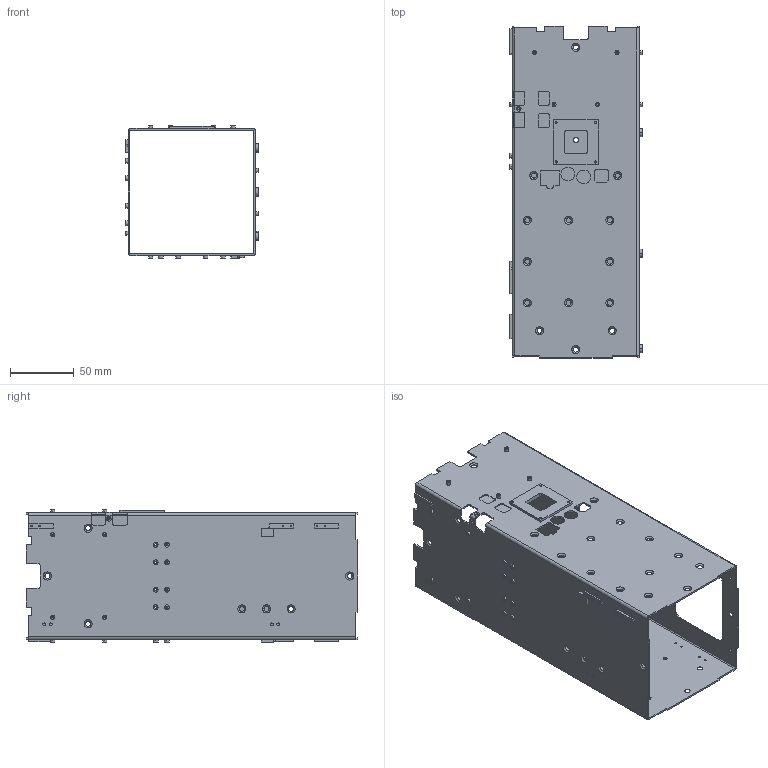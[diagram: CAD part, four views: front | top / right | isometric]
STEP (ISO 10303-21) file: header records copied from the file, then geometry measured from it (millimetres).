
FILE_DESCRIPTION (( 'STEP AP214' ), '1' );
FILE_NAME ('O1 Pro Chassis.STEP', '2023-02-26T05:30:33', ( '' ), ( '' ), 'SwSTEP 2.0', 'SolidWorks 2020', '' );
FILE_SCHEMA (( 'AUTOMOTIVE_DESIGN' ));
Length unit declared in the file: inch
Products named in the file (1): O1 Pro Chassis
Bounding box: 104.83 x 261.09 x 104.57 mm (x, y, z)
Volume: 117116.3 mm3; surface area: 185695.6 mm2
Topology: 1 solids, 1 shells, 716 faces, 1927 edges, 1248 vertices
Faces by surface type: cylinder 389, plane 228, cone 82, torus 16, bspline 1
Entity records: 23198 total; most frequent: DIRECTION 4242, CARTESIAN_POINT 3915, ORIENTED_EDGE 3854, EDGE_CURVE 1927, AXIS2_PLACEMENT_3D 1602, VERTEX_POINT 1248, LINE 1038, VECTOR 1038
